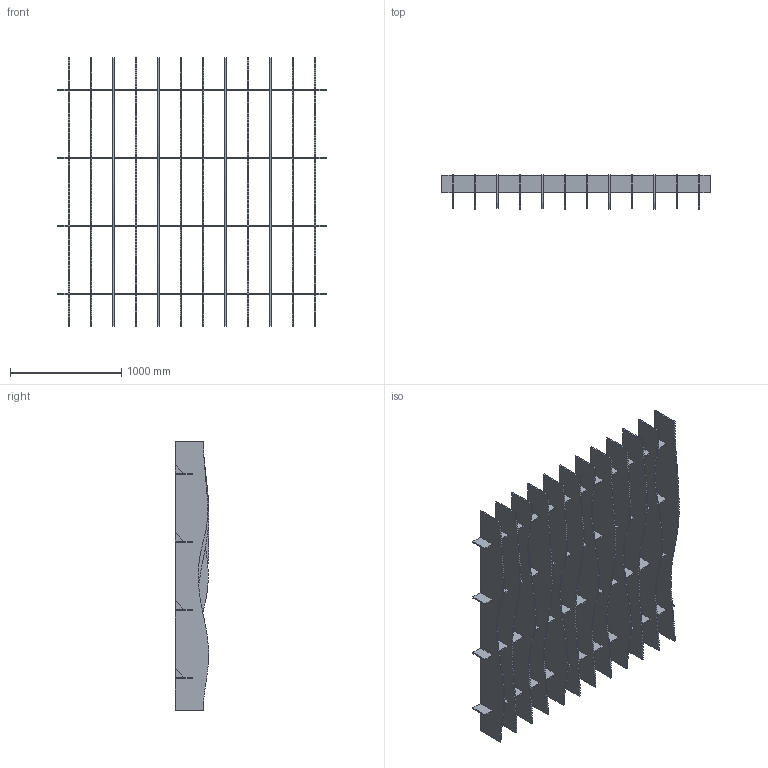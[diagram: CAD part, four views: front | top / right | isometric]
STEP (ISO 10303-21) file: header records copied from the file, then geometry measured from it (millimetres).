
FILE_DESCRIPTION(/* description */ (''),/* implementation_level */ '2;1');
FILE_NAME(/* name */ 'Y:\Design and Engineering\MaterialLogiq\CAD ASSETS\MASTER\BAFFLE\WEB ASSETS\PET BAFFLE_8x8_12FIN_10_WAVE.stp',/* time_stamp */ '2023-11-17T12:49:26-06:00',/* author */ ('Grant Baker'),/* organization */ (''),/* preprocessor_version */ 'ST-DEVELOPER v19',/* originating_system */ 'Autodesk Inventor 2023',/* authorisation */ '');
FILE_SCHEMA (('AUTOMOTIVE_DESIGN { 1 0 10303 214 3 1 1 }'));
Length unit declared in the file: inch
Products named in the file (6): PET BAFFLE_PARAMETRIC_11.02.2023; PET BAFFLE_BEAM; PET BAFFLE_FIN_96in_WAVE-1; PET BAFFLE_FIN_96in_WAVE-3; PET BAFFLE_FIN_96in_WAVE-2; PET BAFFLE_FIN_96in_WAVE-4
Assembly tree (16 placements, depth 2):
  PET BAFFLE_PARAMETRIC_11.02.2023
    PET BAFFLE_BEAM  x4
    PET BAFFLE_FIN_96in_WAVE-1  x3
    PET BAFFLE_FIN_96in_WAVE-3  x3
    PET BAFFLE_FIN_96in_WAVE-2  x3
    PET BAFFLE_FIN_96in_WAVE-4  x3
Bounding box: 2413 x 305.22 x 2413 mm (x, y, z)
Volume: 107216233.6 mm3; surface area: 18853374.8 mm2
Topology: 64 solids, 64 shells, 2958 faces, 8490 edges, 5660 vertices
Faces by surface type: plane 2958
Entity records: 30749 total; most frequent: CARTESIAN_POINT 5524, ORIENTED_EDGE 5460, DIRECTION 4678, LINE 2730, VECTOR 2730, EDGE_CURVE 2730, VERTEX_POINT 1820, AXIS2_PLACEMENT_3D 974
